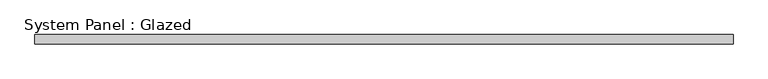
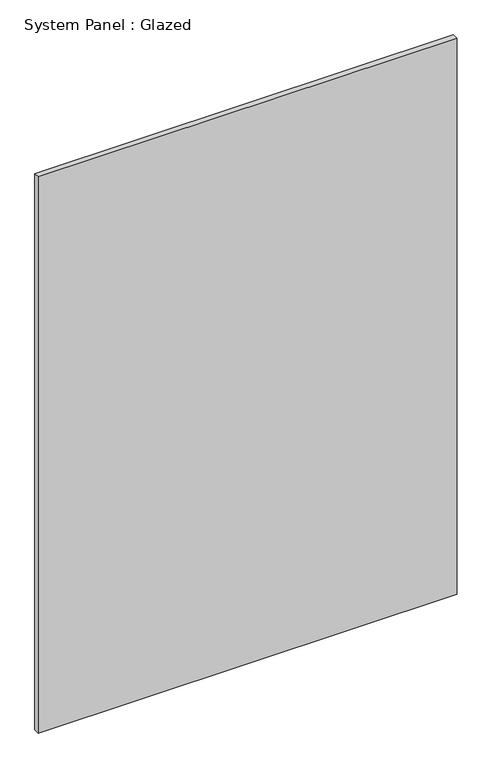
"""IFC4 building model written with IfcOpenShell, lengths in millimetres: plate geometry, System Panel : Glazed."""

from ifc_helpers import new_model, si_unit, origin, origin_with_axes, place, context, project, spatial, polyline, outline, extrude, source, transform, mapped, element, save


def system_panel_glazed_1fbcc06b(model_context):
    return source(origin(), model_context, "Body", "SweptSolid", [
        extrude(outline(polyline([(952.375, 19.05), (-952.375, 19.05), (-952.375, 44.45), (952.375, 44.45), (952.375, 19.05)])), origin_with_axes(), (0.0, 0.0, 1.0), 2673.0),
    ])


if __name__ == "__main__":
    model = new_model("IFC4")
    model_context = context("Model", 3, world=origin())
    ifc_project = project(units=[si_unit("LENGTHUNIT", "METRE", prefix="MILLI")], contexts=[model_context])
    site = spatial("IfcSite", under=ifc_project)
    building = spatial("IfcBuilding", under=site)
    placement = place(None, origin())
    system_panel_glazed_shape = system_panel_glazed_1fbcc06b(model_context)
    element("IfcPlate", 1, ObjectType="System Panel : Glazed", at=placement, inside=building, context=model_context, shape_type="MappedRepresentation", body=[
        mapped(system_panel_glazed_shape, transform((0.0, 0.0, 0.0), x_axis=(1.0, 0.0, 0.0), y_axis=(0.0, 1.0, 0.0), z_axis=(0.0, 0.0, 1.0))),
    ])
    save(model, "model.ifc")
